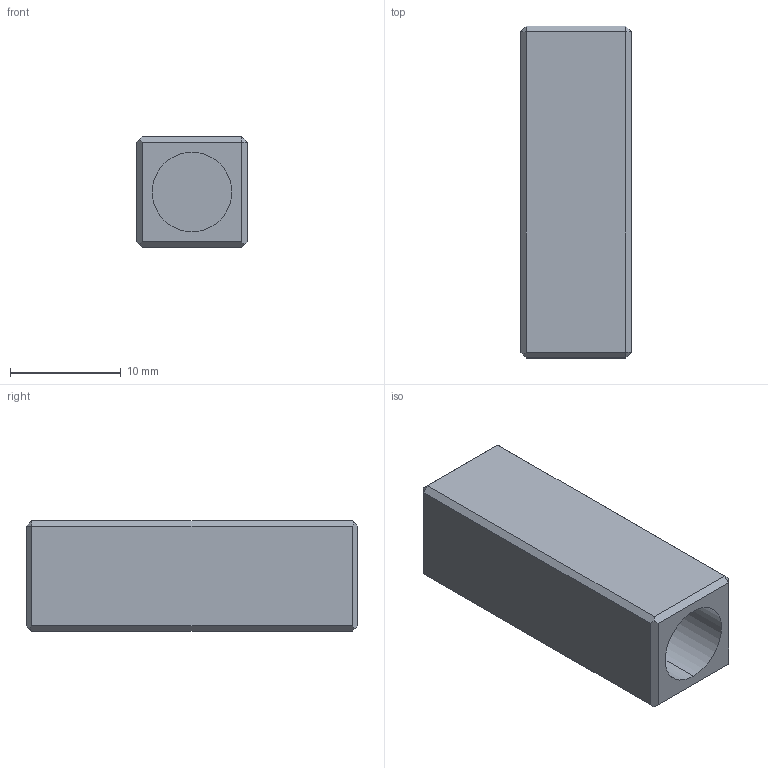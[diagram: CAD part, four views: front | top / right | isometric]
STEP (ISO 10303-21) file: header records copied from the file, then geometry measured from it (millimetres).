
FILE_DESCRIPTION (( 'STEP AP203' ), '1' );
FILE_NAME ('20200818.1-KMC50_WIRECAP_WEB.STEP', '2020-08-19T11:02:00', ( '' ), ( '' ), 'SwSTEP 2.0', 'SolidWorks 2018', '' );
FILE_SCHEMA (( 'CONFIG_CONTROL_DESIGN' ));
Length unit declared in the file: millimetre
Products named in the file (1): 20200818.1-KMC50_WIRECAP_WEB
Bounding box: 10 x 30 x 10 mm (x, y, z)
Volume: 2617.4 mm3; surface area: 1539.9 mm2
Topology: 1 solids, 1 shells, 25 faces, 54 edges, 32 vertices
Faces by surface type: plane 23, cylinder 2
Entity records: 733 total; most frequent: CARTESIAN_POINT 112, DIRECTION 110, ORIENTED_EDGE 108, EDGE_CURVE 54, VECTOR 50, LINE 50, VERTEX_POINT 32, AXIS2_PLACEMENT_3D 30
